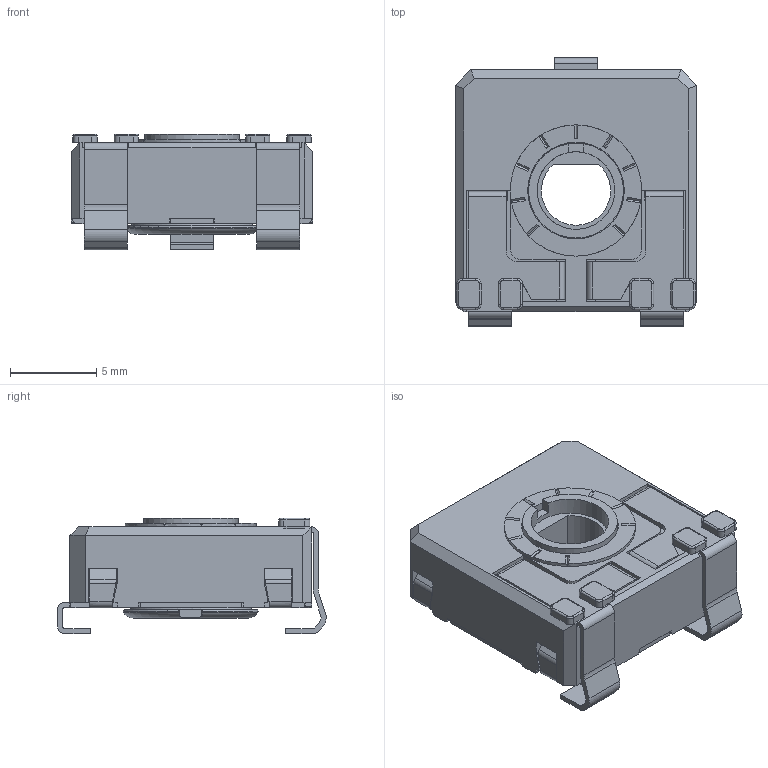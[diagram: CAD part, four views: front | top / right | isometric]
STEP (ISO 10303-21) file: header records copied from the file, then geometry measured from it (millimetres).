
FILE_DESCRIPTION(/* description */ (''),/* implementation_level */ '2;1');
FILE_NAME(/* name */ '\\SERVERACP\intercambio\Ignacio Santa Cecilia\Nueva WEB 2025\CA14 - CE14\CA14FVSMD RT-RO.stp',/* time_stamp */ '2025-07-01T12:13:52+02:00',/* author */ ('CEM'),/* organization */ (''),/* preprocessor_version */ 'ST-DEVELOPER v17',/* originating_system */ 'Autodesk Inventor 2018',/* authorisation */ '');
FILE_SCHEMA (('AUTOMOTIVE_DESIGN { 1 0 10303 214 3 1 1 }'));
Length unit declared in the file: millimetre
Products named in the file (1): CARCASA CA14 PGA
Bounding box: 14 x 15.55 x 6.7 mm (x, y, z)
Volume: 536.2 mm3; surface area: 1472.8 mm2
Topology: 1 solids, 1 shells, 549 faces, 1557 edges, 995 vertices
Faces by surface type: plane 408, cylinder 104, torus 23, bspline 8, cone 6
Full cylindrical faces by diameter (mm): 4.5 x1, 5.5 x1, 5.6 x1, 5.752 x1, 6.8 x1, 7.6 x1
Entity records: 18048 total; most frequent: CARTESIAN_POINT 3399, ORIENTED_EDGE 3114, DIRECTION 2889, EDGE_CURVE 1557, LINE 1219, VECTOR 1219, VERTEX_POINT 995, AXIS2_PLACEMENT_3D 835
